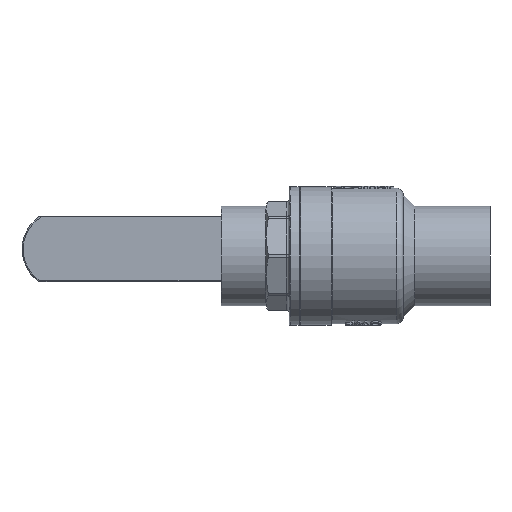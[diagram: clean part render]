
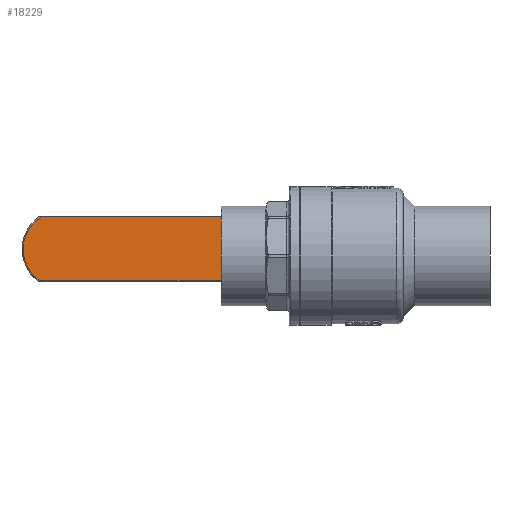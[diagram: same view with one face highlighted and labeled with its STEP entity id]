
A CAD part, front view. The second image highlights one B-rep face of the part: STEP entity #18229.
In plain terms, the highlighted planar face has unit normal (0, -1, 0).
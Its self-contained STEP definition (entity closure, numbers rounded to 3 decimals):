
#2772 = VECTOR ( 'NONE', #44663, 1000. ) ;
#5874 = ORIENTED_EDGE ( 'NONE', *, *, #11877, .T. ) ;
#6728 = VECTOR ( 'NONE', #71750, 1000. ) ;
#8933 = EDGE_CURVE ( 'NONE', #23501, #34391, #19694, .T. ) ;
#9366 = PLANE ( 'NONE',  #59260 ) ;
#9626 = CARTESIAN_POINT ( 'NONE',  ( 49.1, 20.5, 12.65 ) ) ;
#11877 = EDGE_CURVE ( 'NONE', #34391, #62007, #32962, .T. ) ;
#12066 = CARTESIAN_POINT ( 'NONE',  ( 132.901, 20.5, -13.65 ) ) ;
#12881 = DIRECTION ( 'NONE',  ( 0., -1., 0. ) ) ;
#18065 = CARTESIAN_POINT ( 'NONE',  ( 49.1, 20.5, -13.65 ) ) ;
#18229 = ADVANCED_FACE ( 'NONE', ( #70436 ), #9366, .F. ) ;
#18605 = EDGE_CURVE ( 'NONE', #62007, #27845, #31647, .T. ) ;
#19694 = LINE ( 'NONE', #18065, #2772 ) ;
#23501 = VERTEX_POINT ( 'NONE', #36940 ) ;
#25937 = CARTESIAN_POINT ( 'NONE',  ( 124.441, 20.5, 0. ) ) ;
#27845 = VERTEX_POINT ( 'NONE', #33627 ) ;
#29663 = ORIENTED_EDGE ( 'NONE', *, *, #18605, .T. ) ;
#31647 = LINE ( 'NONE', #40627, #6728 ) ;
#31915 = DIRECTION ( 'NONE',  ( 0., 0., -1. ) ) ;
#32962 = CIRCLE ( 'NONE', #61969, 16.059 ) ;
#33627 = CARTESIAN_POINT ( 'NONE',  ( 49.971, 20.5, 13.15 ) ) ;
#34391 = VERTEX_POINT ( 'NONE', #12066 ) ;
#36940 = CARTESIAN_POINT ( 'NONE',  ( 49.971, 20.5, -13.65 ) ) ;
#39494 = CARTESIAN_POINT ( 'NONE',  ( 133.659, 20.5, 13.15 ) ) ;
#40627 = CARTESIAN_POINT ( 'NONE',  ( 49.971, 20.5, 13.15 ) ) ;
#41307 = ORIENTED_EDGE ( 'NONE', *, *, #8933, .T. ) ;
#44663 = DIRECTION ( 'NONE',  ( 1., 0., 0. ) ) ;
#46720 = VECTOR ( 'NONE', #31915, 1000. ) ;
#51832 = CARTESIAN_POINT ( 'NONE',  ( 49.971, 20.5, 12.65 ) ) ;
#58571 = EDGE_LOOP ( 'NONE', ( #41307, #5874, #29663, #61082 ) ) ;
#59260 = AXIS2_PLACEMENT_3D ( 'NONE', #9626, #79318, #67408 ) ;
#61082 = ORIENTED_EDGE ( 'NONE', *, *, #68180, .T. ) ;
#61969 = AXIS2_PLACEMENT_3D ( 'NONE', #25937, #12881, #76738 ) ;
#62007 = VERTEX_POINT ( 'NONE', #39494 ) ;
#63678 = LINE ( 'NONE', #51832, #46720 ) ;
#67408 = DIRECTION ( 'NONE',  ( 0., 0., 1. ) ) ;
#68180 = EDGE_CURVE ( 'NONE', #27845, #23501, #63678, .T. ) ;
#70436 = FACE_OUTER_BOUND ( 'NONE', #58571, .T. ) ;
#71750 = DIRECTION ( 'NONE',  ( -1., 0., 0. ) ) ;
#76738 = DIRECTION ( 'NONE',  ( 0., 0., 1. ) ) ;
#79318 = DIRECTION ( 'NONE',  ( 0., 1., 0. ) ) ;
